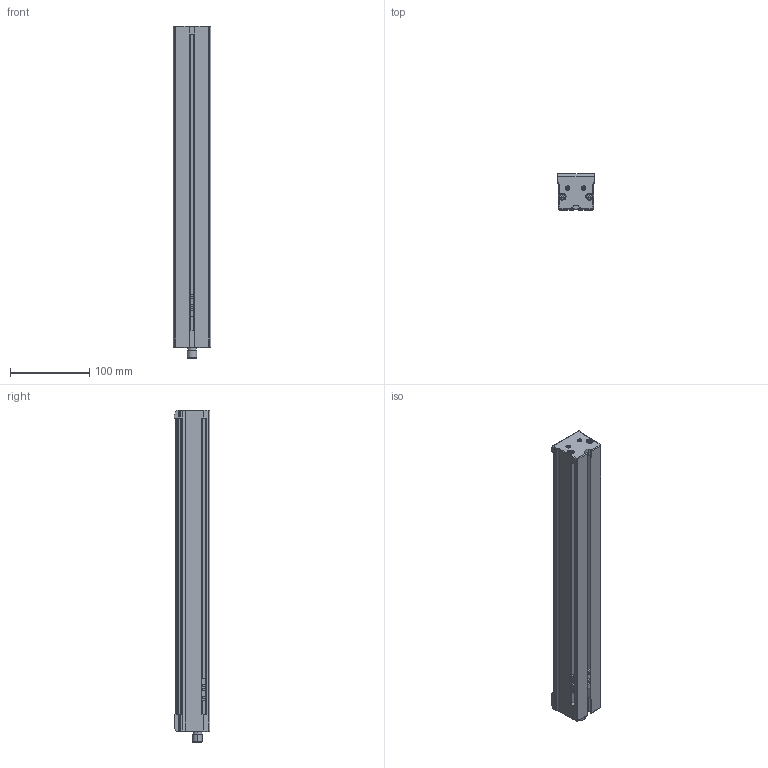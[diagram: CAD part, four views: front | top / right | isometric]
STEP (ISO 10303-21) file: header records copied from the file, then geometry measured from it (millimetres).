
FILE_DESCRIPTION (( 'STEP AP214' ), '1' );
FILE_NAME ('EBAR-HPS-375-xxx-UN_CLIENT.STEP', '2025-11-18T11:56:23', ( '' ), ( '' ), 'SwSTEP 2.0', 'SolidWorks 2025', '' );
FILE_SCHEMA (( 'AUTOMOTIVE_DESIGN' ));
Length unit declared in the file: millimetre
Products named in the file (3): M4 T-Slot Nut; EBAR-HPS-xxx-xxx-xx_CLIENT_375; EBAR-HPS-375-xxx-UN_CLIENT
Assembly tree (7 placements, depth 2):
  EBAR-HPS-375-xxx-UN_CLIENT
    EBAR-HPS-xxx-xxx-xx_CLIENT_375
    M4 T-Slot Nut  x6
Bounding box: 47.63 x 45 x 420.06 mm (x, y, z)
Volume: 698150.4 mm3; surface area: 102455.4 mm2
Topology: 7 solids, 7 shells, 878 faces, 2288 edges, 1484 vertices
Faces by surface type: plane 406, cylinder 246, bspline 140, torus 62, cone 14, sphere 10
Entity records: 29187 total; most frequent: CARTESIAN_POINT 10265, ORIENTED_EDGE 4098, DIRECTION 3542, EDGE_CURVE 2049, VERTEX_POINT 1329, AXIS2_PLACEMENT_3D 1210, VECTOR 1122, LINE 1122
